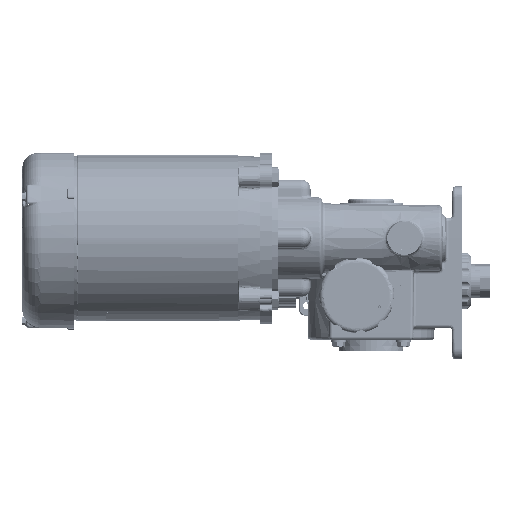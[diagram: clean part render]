
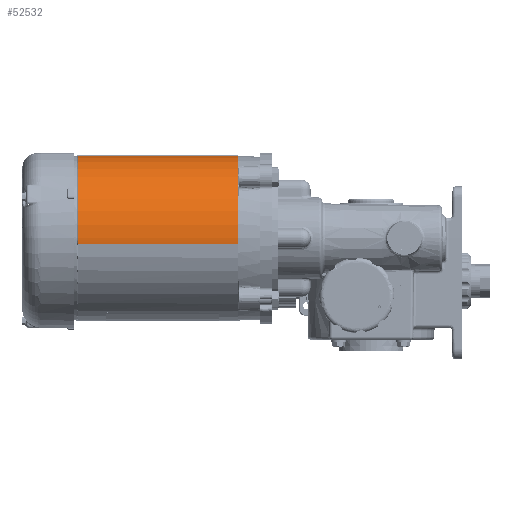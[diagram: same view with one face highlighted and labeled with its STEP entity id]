
A CAD part, left-side view. The second image highlights one B-rep face of the part: STEP entity #52532.
In plain terms, the highlighted cylindrical face has radius 71.369 mm (diameter 142.738 mm), a partial arc.
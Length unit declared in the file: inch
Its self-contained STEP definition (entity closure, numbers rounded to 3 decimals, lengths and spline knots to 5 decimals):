
#2377 = VERTEX_POINT ( 'NONE', #67103 ) ;
#4173 = CARTESIAN_POINT ( 'NONE',  ( -7.61636, 22.32343, 4.84613 ) ) ;
#4837 = EDGE_CURVE ( 'NONE', #111944, #159789, #68763, .T. ) ;
#12985 = ORIENTED_EDGE ( 'NONE', *, *, #13764, .T. ) ;
#13764 = EDGE_CURVE ( 'NONE', #111944, #53398, #99060, .T. ) ;
#19849 = AXIS2_PLACEMENT_3D ( 'NONE', #169212, #168259, #151824 ) ;
#21137 = CARTESIAN_POINT ( 'NONE',  ( -10.42015, 22.32343, 4.66236 ) ) ;
#23999 = CARTESIAN_POINT ( 'NONE',  ( -10.42616, 1.76287, 4.84613 ) ) ;
#28976 = EDGE_LOOP ( 'NONE', ( #12985, #96842, #64403, #89168, #175139, #91359 ) ) ;
#52532 = ADVANCED_FACE ( 'NONE', ( #151752 ), #66195, .T. ) ;
#53398 = VERTEX_POINT ( 'NONE', #167556 ) ;
#55646 = CIRCLE ( 'NONE', #105252, 2.8098 ) ;
#63855 = DIRECTION ( 'NONE',  ( 0., -1., 0. ) ) ;
#64403 = ORIENTED_EDGE ( 'NONE', *, *, #169038, .T. ) ;
#66195 = CYLINDRICAL_SURFACE ( 'NONE', #184313, 2.8098 ) ;
#67103 = CARTESIAN_POINT ( 'NONE',  ( -10.42015, 1.76287, 4.66236 ) ) ;
#68763 = LINE ( 'NONE', #129928, #141791 ) ;
#74961 = AXIS2_PLACEMENT_3D ( 'NONE', #166855, #93024, #75602 ) ;
#75602 = DIRECTION ( 'NONE',  ( -1., 0., 0. ) ) ;
#77940 = EDGE_CURVE ( 'NONE', #53398, #117151, #55646, .T. ) ;
#80307 = LINE ( 'NONE', #21137, #115562 ) ;
#89168 = ORIENTED_EDGE ( 'NONE', *, *, #134996, .T. ) ;
#90097 = DIRECTION ( 'NONE',  ( 0., -1., 0. ) ) ;
#91359 = ORIENTED_EDGE ( 'NONE', *, *, #4837, .F. ) ;
#92115 = EDGE_CURVE ( 'NONE', #120319, #159789, #105990, .T. ) ;
#93024 = DIRECTION ( 'NONE',  ( 0., 1., 0. ) ) ;
#93433 = DIRECTION ( 'NONE',  ( 0., -1., 0. ) ) ;
#96842 = ORIENTED_EDGE ( 'NONE', *, *, #77940, .T. ) ;
#97229 = CIRCLE ( 'NONE', #19849, 2.8098 ) ;
#99060 = CIRCLE ( 'NONE', #105342, 2.8098 ) ;
#105252 = AXIS2_PLACEMENT_3D ( 'NONE', #125630, #185778, #111037 ) ;
#105342 = AXIS2_PLACEMENT_3D ( 'NONE', #119225, #90097, #136689 ) ;
#105990 = CIRCLE ( 'NONE', #74961, 2.8098 ) ;
#111037 = DIRECTION ( 'NONE',  ( 1., 0., 0. ) ) ;
#111944 = VERTEX_POINT ( 'NONE', #131165 ) ;
#115562 = VECTOR ( 'NONE', #63855, 39.37008 ) ;
#117151 = VERTEX_POINT ( 'NONE', #144486 ) ;
#119225 = CARTESIAN_POINT ( 'NONE',  ( -7.61636, 7.24287, 4.84613 ) ) ;
#120319 = VERTEX_POINT ( 'NONE', #23999 ) ;
#120895 = CARTESIAN_POINT ( 'NONE',  ( -7.80013, 1.76287, 7.64992 ) ) ;
#125630 = CARTESIAN_POINT ( 'NONE',  ( -7.61636, 7.24287, 4.84613 ) ) ;
#129928 = CARTESIAN_POINT ( 'NONE',  ( -7.80013, 7.33787, 7.64992 ) ) ;
#131165 = CARTESIAN_POINT ( 'NONE',  ( -7.80013, 7.24287, 7.64992 ) ) ;
#134996 = EDGE_CURVE ( 'NONE', #2377, #120319, #97229, .T. ) ;
#136689 = DIRECTION ( 'NONE',  ( 1., 0., 0. ) ) ;
#141791 = VECTOR ( 'NONE', #142561, 39.37008 ) ;
#142561 = DIRECTION ( 'NONE',  ( 0., -1., 0. ) ) ;
#144486 = CARTESIAN_POINT ( 'NONE',  ( -10.42015, 7.24287, 4.66236 ) ) ;
#151752 = FACE_OUTER_BOUND ( 'NONE', #28976, .T. ) ;
#151824 = DIRECTION ( 'NONE',  ( -1., 0., 0. ) ) ;
#159789 = VERTEX_POINT ( 'NONE', #120895 ) ;
#166855 = CARTESIAN_POINT ( 'NONE',  ( -7.61636, 1.76287, 4.84613 ) ) ;
#167556 = CARTESIAN_POINT ( 'NONE',  ( -10.42616, 7.24287, 4.84613 ) ) ;
#168259 = DIRECTION ( 'NONE',  ( 0., 1., 0. ) ) ;
#169038 = EDGE_CURVE ( 'NONE', #117151, #2377, #80307, .T. ) ;
#169212 = CARTESIAN_POINT ( 'NONE',  ( -7.61636, 1.76287, 4.84613 ) ) ;
#175139 = ORIENTED_EDGE ( 'NONE', *, *, #92115, .T. ) ;
#184313 = AXIS2_PLACEMENT_3D ( 'NONE', #4173, #93433, #184622 ) ;
#184622 = DIRECTION ( 'NONE',  ( -0.998, 0., -0.065 ) ) ;
#185778 = DIRECTION ( 'NONE',  ( 0., -1., 0. ) ) ;
